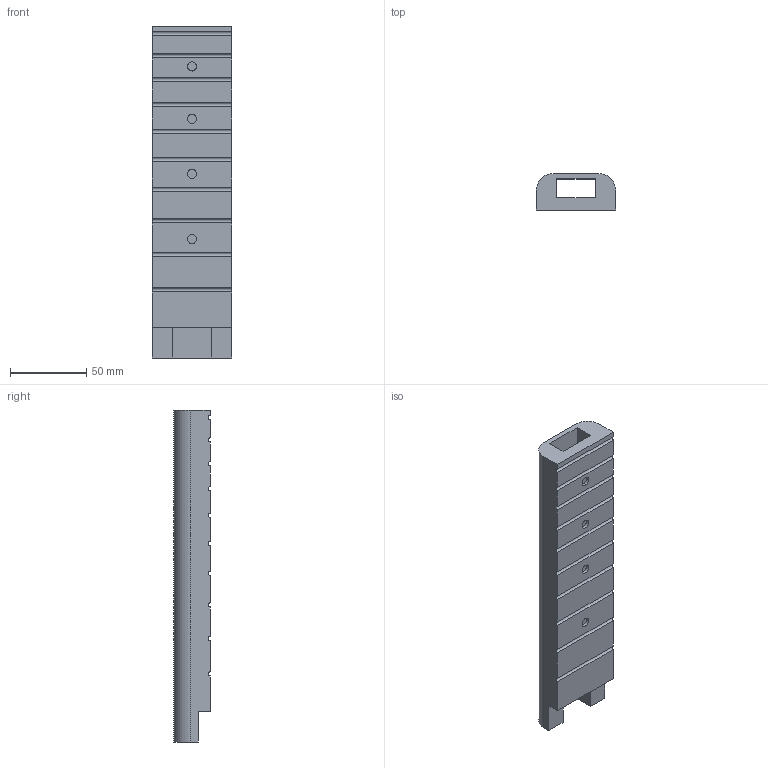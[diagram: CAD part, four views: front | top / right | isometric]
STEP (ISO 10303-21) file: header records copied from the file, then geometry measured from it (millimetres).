
FILE_DESCRIPTION(('STEP AP203'), '1');
FILE_NAME('ëàä âåñü', '', ('UNSPECIFIED'), ('UNSPECIFIED'), 'ASCON STEP Converter 1.3', 'ASCON Math Kernel', '');
FILE_SCHEMA(('CONFIG_CONTROL_DESIGN'));
Length unit declared in the file: millimetre
Bounding box: 52 x 24 x 218 mm (x, y, z)
Volume: 180947.6 mm3; surface area: 48992.2 mm2
Topology: 1 solids, 1 shells, 43 faces, 112 edges, 74 vertices
Faces by surface type: plane 27, cylinder 16
Full cylindrical faces by diameter (mm): 6 x4
Entity records: 1694 total; most frequent: DIRECTION 228, CARTESIAN_POINT 226, ORIENTED_EDGE 216, EDGE_CURVE 108, AXIS2_PLACEMENT_3D 76, LINE 76, VECTOR 76, VERTEX_POINT 74
